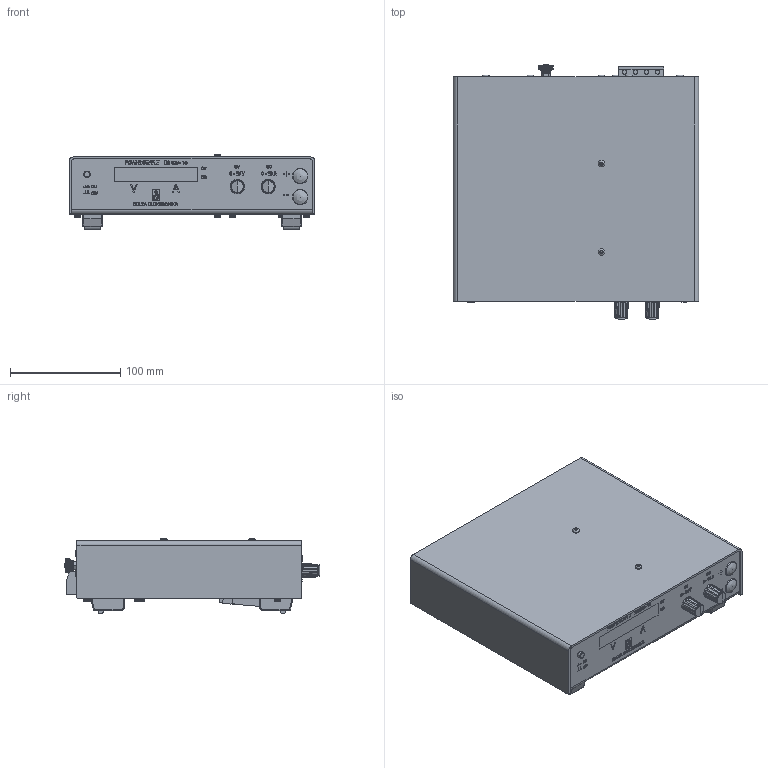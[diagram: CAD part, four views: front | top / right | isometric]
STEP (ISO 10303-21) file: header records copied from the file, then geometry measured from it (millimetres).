
FILE_DESCRIPTION(/* description */ (''),/* implementation_level */ '2;1');
FILE_NAME(/* name */ 'A:\Data\ES150\option\P150\step file\ES150-P119,150.stp',/* time_stamp */ '2021-02-15T15:45:04+01:00',/* author */ ('Delta'),/* organization */ (''),/* preprocessor_version */ 'ST-DEVELOPER v17.2',/* originating_system */ 'Autodesk Inventor 2019',/* authorisation */ '');
FILE_SCHEMA (('AUTOMOTIVE_DESIGN { 1 0 10303 214 3 1 1 }'));
Products named in the file (1): assembly ES150-P119,150_Shrinkwrap_1
Bounding box: 222 x 231.2 x 68.2 mm (x, y, z)
Volume: 2323710.3 mm3; surface area: 164925.9 mm2
Topology: 1 solids, 1 shells, 3394 faces, 8067 edges, 5176 vertices
Faces by surface type: plane 1914, cylinder 685, bspline 400, cone 237, torus 90, sphere 68
Full cylindrical faces by diameter (mm): 3.5 x351, 3.9 x4, 4 x2, 4.5 x2, 4.75 x4, 5 x1, 5.8 x1, 6 x31, 6.2 x2, 6.9 x8, 7.1 x4, 7.8 x2, 8 x4, 8.3 x2, 8.8 x2, 9 x2, 9.8 x4, 10 x2, 10.5 x1, 10.7 x2
Entity records: 107166 total; most frequent: CARTESIAN_POINT 27907, ORIENTED_EDGE 16084, DIRECTION 15023, EDGE_CURVE 8042, AXIS2_PLACEMENT_3D 5369, VERTEX_POINT 5178, LINE 4285, VECTOR 4285
